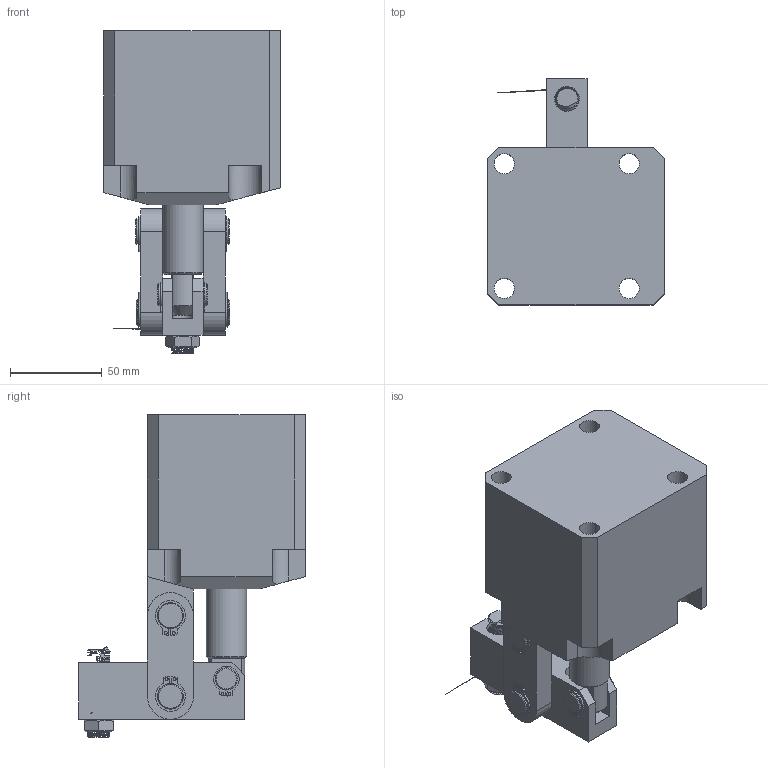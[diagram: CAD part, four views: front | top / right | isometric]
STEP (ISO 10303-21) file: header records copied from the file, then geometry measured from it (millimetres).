
FILE_DESCRIPTION(/* description */ ('STEP AP214'),/* implementation_level */ '2;1');
FILE_NAME(/* name */ 'D:\Vault_2016\Projekty\Clamptek\Hydraulic\CBLU\CBLU-55\STEP\CBLU-55L.stp',/* time_stamp */ '2021-05-06T12:57:16+02:00',/* author */ ('user'),/* organization */ (''),/* preprocessor_version */ 'ST-DEVELOPER v18.1',/* originating_system */ 'Autodesk Inventor 2021',/* authorisation */ '');
FILE_SCHEMA (('AUTOMOTIVE_DESIGN { 1 0 10303 214 3 1 1 }'));
Products named in the file (11): CBLU-55L; CBLU-55CL±¾Ìå_1_1_1; duanxiao; huosaigan_3_1; luogan; luomu; yabi; liangan; kahuang01; changxiao; kahuang
Assembly tree (16 placements, depth 2):
  CBLU-55L
    CBLU-55CL±¾Ìå_1_1_1
    changxiao  x2
    duanxiao
    huosaigan_3_1
    kahuang  x4
    kahuang01  x2
    liangan  x2
    luogan
    luomu
    yabi
Bounding box: 96 x 123.5 x 175.89 mm (x, y, z)
Volume: 690830.7 mm3; surface area: 125165.7 mm2
Topology: 15 solids, 125 shells, 424 faces, 1157 edges, 881 vertices
Faces by surface type: cylinder 247, plane 133, cone 23, bspline 21
Full cylindrical faces by diameter (mm): 1.479 x4, 1.725 x8, 4 x3, 11 x24, 11.5 x7, 12 x11, 13 x4, 14 x12, 22 x2, 34.268 x1, 34.766 x1, 55 x2
Entity records: 103797 total; most frequent: CARTESIAN_POINT 95382, ORIENTED_EDGE 1505, DIRECTION 1346, EDGE_CURVE 943, VERTEX_POINT 741, AXIS2_PLACEMENT_3D 507, B_SPLINE_CURVE_WITH_KNOTS 433, EDGE_LOOP 389
